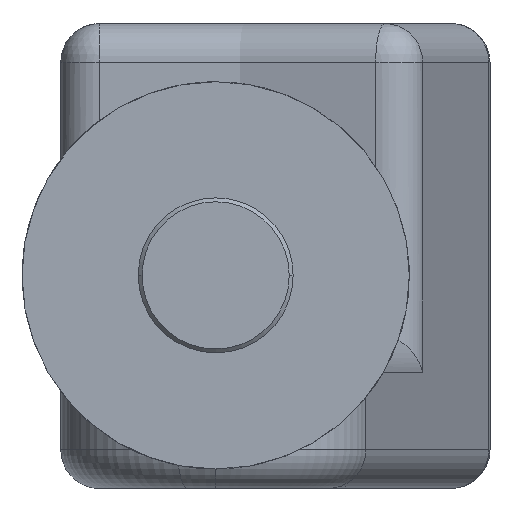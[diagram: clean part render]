
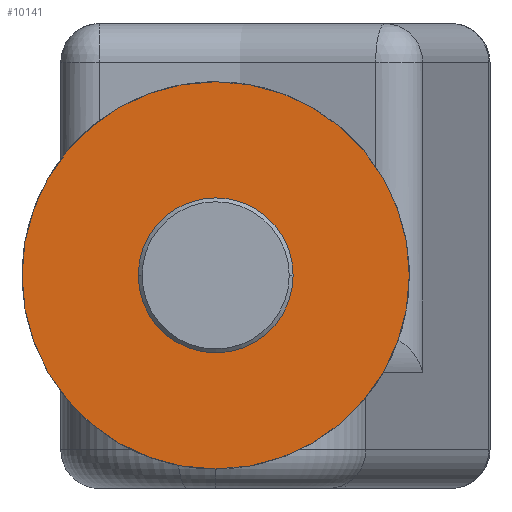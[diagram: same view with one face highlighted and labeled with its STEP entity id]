
A CAD part, front view. The second image highlights one B-rep face of the part: STEP entity #10141.
In plain terms, the highlighted planar face has unit normal (0, -1, 0).
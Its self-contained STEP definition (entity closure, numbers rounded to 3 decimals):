
#277 = EDGE_CURVE ( 'NONE', #3593, #7605, #3379, .T. ) ;
#419 = VERTEX_POINT ( 'NONE', #9747 ) ;
#780 = DIRECTION ( 'NONE',  ( 0., -1., 0. ) ) ;
#816 = ORIENTED_EDGE ( 'NONE', *, *, #1554, .T. ) ;
#829 = VERTEX_POINT ( 'NONE', #8500 ) ;
#1402 = CIRCLE ( 'NONE', #4043, 2. ) ;
#1434 = EDGE_LOOP ( 'NONE', ( #4037, #816 ) ) ;
#1554 = EDGE_CURVE ( 'NONE', #7605, #3593, #8276, .T. ) ;
#1583 = CARTESIAN_POINT ( 'NONE',  ( 4., -53., 1.5 ) ) ;
#1648 = AXIS2_PLACEMENT_3D ( 'NONE', #1583, #780, #5473 ) ;
#1923 = DIRECTION ( 'NONE',  ( 0., 1., 0. ) ) ;
#2324 = CARTESIAN_POINT ( 'NONE',  ( 4., -53., 1.5 ) ) ;
#2331 = PLANE ( 'NONE',  #6703 ) ;
#2549 = DIRECTION ( 'NONE',  ( 0., 1., 0. ) ) ;
#3379 = CIRCLE ( 'NONE', #1648, 5. ) ;
#3470 = ORIENTED_EDGE ( 'NONE', *, *, #6949, .T. ) ;
#3593 = VERTEX_POINT ( 'NONE', #8501 ) ;
#3928 = CARTESIAN_POINT ( 'NONE',  ( 4., -53., 1.5 ) ) ;
#4029 = EDGE_CURVE ( 'NONE', #829, #419, #1402, .T. ) ;
#4037 = ORIENTED_EDGE ( 'NONE', *, *, #277, .T. ) ;
#4043 = AXIS2_PLACEMENT_3D ( 'NONE', #6616, #1923, #7393 ) ;
#4116 = FACE_OUTER_BOUND ( 'NONE', #1434, .T. ) ;
#4669 = CIRCLE ( 'NONE', #6266, 2. ) ;
#4712 = DIRECTION ( 'NONE',  ( 1., 0., 0. ) ) ;
#5056 = DIRECTION ( 'NONE',  ( 0., -1., 0. ) ) ;
#5473 = DIRECTION ( 'NONE',  ( -1., 0., 0. ) ) ;
#5786 = CARTESIAN_POINT ( 'NONE',  ( 9., -53., 1.5 ) ) ;
#6266 = AXIS2_PLACEMENT_3D ( 'NONE', #7219, #2549, #8017 ) ;
#6435 = FACE_BOUND ( 'NONE', #7788, .T. ) ;
#6616 = CARTESIAN_POINT ( 'NONE',  ( 4., -53., 1.5 ) ) ;
#6703 = AXIS2_PLACEMENT_3D ( 'NONE', #3928, #9395, #4712 ) ;
#6949 = EDGE_CURVE ( 'NONE', #419, #829, #4669, .T. ) ;
#7219 = CARTESIAN_POINT ( 'NONE',  ( 4., -53., 1.5 ) ) ;
#7393 = DIRECTION ( 'NONE',  ( 1., 0., 0. ) ) ;
#7513 = ORIENTED_EDGE ( 'NONE', *, *, #4029, .T. ) ;
#7605 = VERTEX_POINT ( 'NONE', #5786 ) ;
#7788 = EDGE_LOOP ( 'NONE', ( #7513, #3470 ) ) ;
#8017 = DIRECTION ( 'NONE',  ( 1., 0., 0. ) ) ;
#8276 = CIRCLE ( 'NONE', #8505, 5. ) ;
#8500 = CARTESIAN_POINT ( 'NONE',  ( 6., -53., 1.5 ) ) ;
#8501 = CARTESIAN_POINT ( 'NONE',  ( -1., -53., 1.5 ) ) ;
#8505 = AXIS2_PLACEMENT_3D ( 'NONE', #2324, #5056, #8798 ) ;
#8798 = DIRECTION ( 'NONE',  ( -1., 0., 0. ) ) ;
#9395 = DIRECTION ( 'NONE',  ( 0., 1., 0. ) ) ;
#9747 = CARTESIAN_POINT ( 'NONE',  ( 2., -53., 1.5 ) ) ;
#10141 = ADVANCED_FACE ( 'NONE', ( #6435, #4116 ), #2331, .F. ) ;
